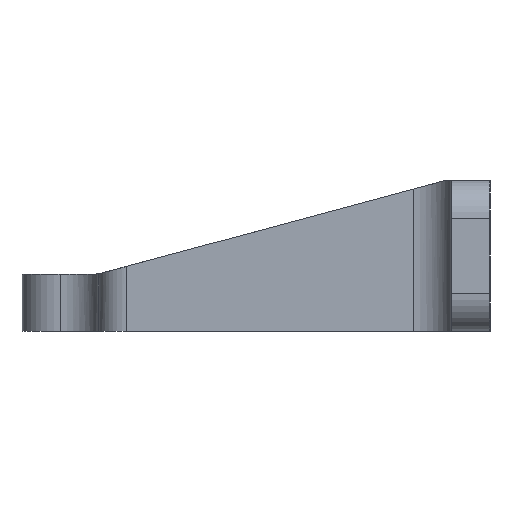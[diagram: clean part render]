
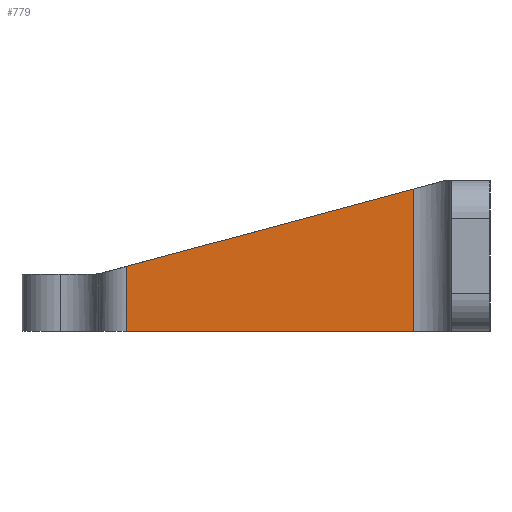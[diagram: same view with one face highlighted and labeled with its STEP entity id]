
A CAD part, left-side view. The second image highlights one B-rep face of the part: STEP entity #779.
In plain terms, the highlighted planar face has unit normal (-1, 0, 0).
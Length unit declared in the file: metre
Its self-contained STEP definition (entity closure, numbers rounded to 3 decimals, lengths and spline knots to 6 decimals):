
#160=ORIENTED_EDGE('',*,*,#370,.F.);
#161=ORIENTED_EDGE('',*,*,#369,.T.);
#162=ORIENTED_EDGE('',*,*,#371,.T.);
#163=ORIENTED_EDGE('',*,*,#317,.F.);
#317=EDGE_CURVE('',#431,#432,#504,.T.);
#369=EDGE_CURVE('',#464,#465,#539,.T.);
#370=EDGE_CURVE('',#464,#431,#540,.T.);
#371=EDGE_CURVE('',#465,#432,#541,.T.);
#431=VERTEX_POINT('',#1176);
#432=VERTEX_POINT('',#1178);
#464=VERTEX_POINT('',#1274);
#465=VERTEX_POINT('',#1277);
#504=LINE('',#1177,#578);
#539=LINE('',#1278,#613);
#540=LINE('',#1280,#614);
#541=LINE('',#1281,#615);
#578=VECTOR('',#929,1.);
#613=VECTOR('',#1028,1.);
#614=VECTOR('',#1031,1.);
#615=VECTOR('',#1032,1.);
#655=EDGE_LOOP('',(#160,#161,#162,#163));
#705=FACE_BOUND('',#655,.T.);
#747=PLANE('',#854);
#779=ADVANCED_FACE('',(#705),#747,.F.);
#854=AXIS2_PLACEMENT_3D('',#1279,#1029,#1030);
#929=DIRECTION('',(0.,0.,-1.));
#1028=DIRECTION('',(0.,0.,-1.));
#1029=DIRECTION('',(1.,0.,0.));
#1030=DIRECTION('',(0.,0.,-1.));
#1031=DIRECTION('',(0.,-0.966,0.26));
#1032=DIRECTION('',(0.,-1.,0.));
#1176=CARTESIAN_POINT('',(-0.192388,0.004086,0.007623));
#1177=CARTESIAN_POINT('',(-0.192388,0.004086,0.008072));
#1178=CARTESIAN_POINT('',(-0.192388,0.004086,0.));
#1274=CARTESIAN_POINT('',(-0.192388,0.019449,0.003482));
#1277=CARTESIAN_POINT('',(-0.192388,0.019449,0.));
#1278=CARTESIAN_POINT('',(-0.192388,0.019449,0.008072));
#1279=CARTESIAN_POINT('',(-0.192388,0.011768,0.008072));
#1280=CARTESIAN_POINT('',(-0.192388,0.011134,0.005723));
#1281=CARTESIAN_POINT('',(-0.192388,0.011768,0.));
